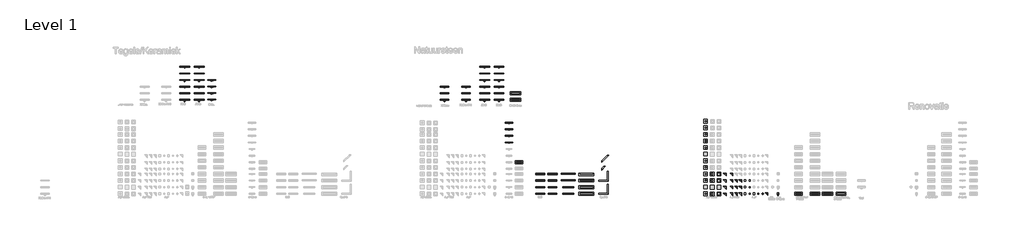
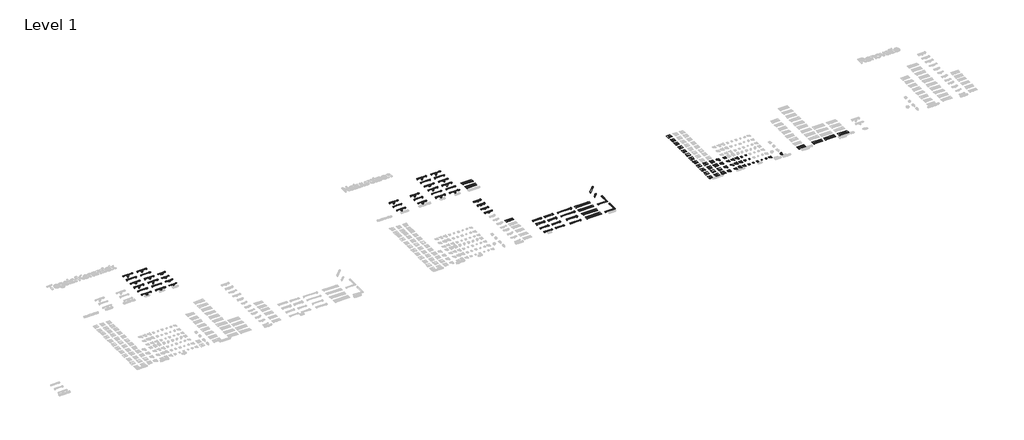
# One storey, part 4 of 23: 121 sanitary terminals, 9 coverings.
"""IFC4 building model written with IfcOpenShell, lengths in millimetres."""

from ifc_helpers import new_model, si_unit, origin, place, context, project, spatial, transform, mapped, element, save
from components import covering_949c216e, covering_b1c8ad42, covering_8_tile_f43c0e9c, sanitary_terminal_5b34698b, sanitary_terminal_7838ee8a, sanitary_terminal_e1eeded3, sanitary_terminal_c62dae5d, sanitary_terminal_87b3114c, sanitary_terminal_f435edd6, sanitary_terminal_14f323dd, sanitary_terminal_3431c1f4, sanitary_terminal_ecf4810a, sanitary_terminal_20bd8035, sanitary_terminal_d8e2b8db, sanitary_terminal_2b42c3a1, sanitary_terminal_618b5920, sanitary_terminal_f49d5aff, sanitary_terminal_9ca81c68, sanitary_terminal_43092b2e, sanitary_terminal_f3bc452c, sanitary_terminal_6d434ef9, sanitary_terminal_b07f8d72, sanitary_terminal_18c5c034, sanitary_terminal_83d6f62a, sanitary_terminal_4a5be464, sanitary_terminal_d9133679, sanitary_terminal_ab72299f, sanitary_terminal_dddee02a, sanitary_terminal_49c4bee3, sanitary_terminal_2f80e022, sanitary_terminal_2ebfcd1c, sanitary_terminal_5c7f7aa6, sanitary_terminal_eb8b4586, sanitary_terminal_f8d560c6, sanitary_terminal_14ebe62b, sanitary_terminal_cf954fec, sanitary_terminal_cd1ec674, black_glass_10x10_94a9755f, black_glass_15x15_4ec12fde, black_glass_20x20_2d4f7b62, compact_d3044acb, compact_ff_tile_2c53a190, compact_taf_09897acd, compact_wall_94ad205f, compact_wall_42add6d5, compact_wall_7a272a64, compact_wall_831ec387, m_line_c0a41354, m_line_9a3da5f7, m2_trap_body_7347115e, multi_long_length_horizontal_outlet_low_40mm_4c622230, multi_taf_wall_horizontal_outlet_high_50mm_fefc41ae, multi_taf_horizontal_outlet_low_40mm_1422f05b, multi_tile_horizontal_outlet_low_40mm_311f17a8, tile_10x10_495e2d9a, tile_10x10_58bf98e1, tile_15x15_625d1f21, tile_20x20_1db265bf, xs_nano_9b7dcf74, xs_nano_wall_a90b67c6, xs_nano_wall_with_m2_vertical_outlet_9d345bf4, xs_nano_with_m2_vertical_outlet_db10e45d

model = new_model("IFC4")

# Units and contexts
model_context = context("Model", 3, world=origin())
ifc_project = project(units=[si_unit("LENGTHUNIT", "METRE", prefix="MILLI")], contexts=[model_context])

# Site, building, storey
site = spatial("IfcSite", under=ifc_project)
building = spatial("IfcBuilding", under=site)
storey = spatial("IfcBuildingStorey", under=building, Name="Level 1", Elevation=0.0)

# Coverings
placement = place(None, origin())
covering_shape = covering_949c216e(model_context)
element("IfcCovering", 1, ObjectType="Z_DO_NOT_USE_NLRS_PF_52_UN_Extension Set_Easydrain : NLRS_PLF_52_UN_Easy Drain verlengset_Easydrain", at=placement, inside=storey, context=model_context, shape_type="MappedRepresentation", body=[
    mapped(covering_shape, transform((88017.5, 7700.0, 0.0), x_axis=(1.0, 0.0, 0.0), y_axis=(0.0, 1.0, 0.0), z_axis=(0.0, 0.0, 1.0))),
])
covering_2_shape = covering_b1c8ad42(model_context)
element("IfcCovering", 2, ObjectType="Z_DO_NOT_USE_NLRS_PF_52_UN_Multi Grate_Easydrain : 2 - Excenter", at=placement, inside=storey, context=model_context, shape_type="MappedRepresentation", body=[
    mapped(covering_2_shape, transform((64749.785592, 8300.0, 0.0), x_axis=(1.0, 0.0, 0.0), y_axis=(0.0, 1.0, 0.0), z_axis=(0.0, 0.0, 1.0))),
])
element("IfcCovering", 3, ObjectType="Z_DO_NOT_USE_NLRS_PF_52_UN_Multi Grate_Easydrain : 1 - Fixt", at=placement, inside=storey, context=model_context, shape_type="MappedRepresentation", body=[
    mapped(covering_2_shape, transform((64749.785592, 7700.0, 0.0), x_axis=(1.0, 0.0, 0.0), y_axis=(0.0, 1.0, 0.0), z_axis=(0.0, 0.0, 1.0))),
])
element("IfcCovering", 4, ObjectType="Z_DO_NOT_USE_NLRS_PF_52_UN_Multi Grate_Easydrain : 1 - Fixt", at=placement, inside=storey, context=model_context, shape_type="MappedRepresentation", body=[
    mapped(covering_2_shape, transform((65849.785592, 9500.0, 0.0), x_axis=(1.0, 0.0, 0.0), y_axis=(0.0, 1.0, 0.0), z_axis=(0.0, 0.0, 1.0))),
])
element("IfcCovering", 5, ObjectType="Z_DO_NOT_USE_NLRS_PF_52_UN_Multi Grate_Easydrain : 7 - Carré", at=placement, inside=storey, context=model_context, shape_type="MappedRepresentation", body=[
    mapped(covering_2_shape, transform((65849.785592, 8300.0, 0.0), x_axis=(1.0, 0.0, 0.0), y_axis=(0.0, 1.0, 0.0), z_axis=(0.0, 0.0, 1.0))),
])
element("IfcCovering", 6, ObjectType="Z_DO_NOT_USE_NLRS_PF_52_UN_Multi Grate_Easydrain : 3 - Outside", at=placement, inside=storey, context=model_context, shape_type="MappedRepresentation", body=[
    mapped(covering_2_shape, transform((64749.785592, 8900.0, 0.0), x_axis=(1.0, 0.0, 0.0), y_axis=(0.0, 1.0, 0.0), z_axis=(0.0, 0.0, 1.0))),
])
element("IfcCovering", 7, ObjectType="Z_DO_NOT_USE_NLRS_PF_52_UN_Multi Grate_Easydrain : 4 - Move", at=placement, inside=storey, context=model_context, shape_type="MappedRepresentation", body=[
    mapped(covering_2_shape, transform((64749.785592, 9500.0, 0.0), x_axis=(1.0, 0.0, 0.0), y_axis=(0.0, 1.0, 0.0), z_axis=(0.0, 0.0, 1.0))),
])
element("IfcCovering", 8, ObjectType="Z_DO_NOT_USE_NLRS_PF_52_UN_Multi Grate_Easydrain : 6 - Zero", at=placement, inside=storey, context=model_context, shape_type="MappedRepresentation", body=[
    mapped(covering_2_shape, transform((65849.785592, 7700.0, 0.0), x_axis=(1.0, 0.0, 0.0), y_axis=(0.0, 1.0, 0.0), z_axis=(0.0, 0.0, 1.0))),
])
covering_8_tile_shape = covering_8_tile_f43c0e9c(model_context)
element("IfcCovering", 9, ObjectType="Z_DO_NOT_USE_NLRS_PF_52_UN_Multi Grate_Easydrain : 8 - Tile", at=placement, inside=storey, context=model_context, shape_type="MappedRepresentation", body=[
    mapped(covering_8_tile_shape, transform((65849.785592, 8900.0, 0.0), x_axis=(1.0, 0.0, 0.0), y_axis=(0.0, 1.0, 0.0), z_axis=(0.0, 0.0, 1.0))),
])

# Sanitary terminals
sanitary_terminal_shape = sanitary_terminal_5b34698b(model_context)
element("IfcSanitaryTerminal", 10, ObjectType="NLRS_PF_52_UN_Aqua Jewels Delta_in_uitloop_Easydrain : Aqua Jewels Delta zijuitloop hoog 50mm, zij-ingang 40mm", at=placement, inside=storey, context=model_context, shape_type="MappedRepresentation", body=[
    mapped(sanitary_terminal_shape, transform((81600.0, 8900.0, 0.0), x_axis=(1.0, 0.0, 0.0), y_axis=(0.0, 1.0, 0.0), z_axis=(0.0, 0.0, 1.0))),
])
element("IfcSanitaryTerminal", 11, ObjectType="NLRS_PF_52_UN_Aqua Jewels Delta_uitloop_Easydrain : Aqua Jewels Delta horizontal outlet low 40mm", at=placement, inside=storey, context=model_context, shape_type="MappedRepresentation", body=[
    mapped(sanitary_terminal_shape, transform((81600.0, 7700.0, 0.0), x_axis=(1.0, 0.0, 0.0), y_axis=(0.0, 1.0, 0.0), z_axis=(0.0, 0.0, 1.0))),
])
sanitary_terminal_2_shape = sanitary_terminal_7838ee8a(model_context)
element("IfcSanitaryTerminal", 12, ObjectType="NLRS_PF_52_UN_Compact Modulo Stone_Easydrain : Compact Modulo Stone", at=placement, inside=storey, context=model_context, shape_type="MappedRepresentation", body=[
    mapped(sanitary_terminal_2_shape, transform((62350.0, 16250.0, 0.0), x_axis=(1.0, 0.0, 0.0), y_axis=(0.0, 1.0, 0.0), z_axis=(0.0, 0.0, 1.0))),
])
sanitary_terminal_3_shape = sanitary_terminal_e1eeded3(model_context)
element("IfcSanitaryTerminal", 13, ObjectType="NLRS_PF_52_UN_Compact TAF Low_Easydrain : Compact TAF Low Inleg", at=placement, inside=storey, context=model_context, shape_type="MappedRepresentation", body=[
    mapped(sanitary_terminal_3_shape, transform((92030.0, 7700.0, 0.0), x_axis=(1.0, 0.0, 0.0), y_axis=(0.0, 1.0, 0.0), z_axis=(0.0, 0.0, 1.0))),
])
sanitary_terminal_4_shape = sanitary_terminal_c62dae5d(model_context)
element("IfcSanitaryTerminal", 14, ObjectType="NLRS_PF_52_UN_Compact TAF Modulo Design_Easydrain : Compact TAF Modulo Design Z2", at=placement, inside=storey, context=model_context, shape_type="MappedRepresentation", body=[
    mapped(sanitary_terminal_4_shape, transform((90750.0, 7700.0, 0.0), x_axis=(1.0, 0.0, 0.0), y_axis=(0.0, 1.0, 0.0), z_axis=(0.0, 0.0, 1.0))),
])
sanitary_terminal_5_shape = sanitary_terminal_87b3114c(model_context)
element("IfcSanitaryTerminal", 15, ObjectType="NLRS_PF_52_UN_Compact TAF Modulo_Easydrain : Compact TAF Modulo Classic", at=placement, inside=storey, context=model_context, shape_type="MappedRepresentation", body=[
    mapped(sanitary_terminal_5_shape, transform((89650.0, 7700.0, 0.0), x_axis=(1.0, 0.0, 0.0), y_axis=(0.0, 1.0, 0.0), z_axis=(0.0, 0.0, 1.0))),
])
sanitary_terminal_6_shape = sanitary_terminal_f435edd6(model_context)
element("IfcSanitaryTerminal", 16, ObjectType="NLRS_PF_52_UN_Multi Long Length in_uitloop_Easydrain : Multi Long Length zijuitloop hoog 50mm, zij-ingang 40mm", at=placement, inside=storey, context=model_context, shape_type="MappedRepresentation", body=[
    mapped(sanitary_terminal_6_shape, transform((66899.785592, 9500.0, 0.0), x_axis=(1.0, 0.0, 0.0), y_axis=(0.0, 1.0, 0.0), z_axis=(0.0, 0.0, 1.0))),
])
sanitary_terminal_7_shape = sanitary_terminal_14f323dd(model_context)
element("IfcSanitaryTerminal", 17, ObjectType="NLRS_PF_52_UN_Multi Square in_uitloop_Easydrain : Multi Square zijuitloop hoog 50mm, zij-ingang 40mm", at=placement, inside=storey, context=model_context, shape_type="MappedRepresentation", body=[
    mapped(sanitary_terminal_7_shape, transform((70049.785592, 9750.0, 0.0), x_axis=(1.0, 0.0, 0.0), y_axis=(0.0, 1.0, 0.0), z_axis=(0.0, 0.0, 1.0))),
])
sanitary_terminal_8_shape = sanitary_terminal_3431c1f4(model_context)
element("IfcSanitaryTerminal", 18, ObjectType="NLRS_PF_52_UN_Multi Trapezium uitloop_Easydrain : Multi Trapezium horizontal outlet low 40mm", at=placement, inside=storey, context=model_context, shape_type="MappedRepresentation", body=[
    mapped(sanitary_terminal_8_shape, transform((70330.3407961, 10197.7332052, 0.0), x_axis=(1.0, 0.0, 0.0), y_axis=(0.0, 1.0, 0.0), z_axis=(0.0, 0.0, 1.0))),
])
sanitary_terminal_9_shape = sanitary_terminal_ecf4810a(model_context)
element("IfcSanitaryTerminal", 19, ObjectType="NLRS_PF_52_UN_XS Nano Wall_Easydrain : XS Nano Wall with M2 flat siphon", at=placement, inside=storey, context=model_context, shape_type="MappedRepresentation", body=[
    mapped(sanitary_terminal_9_shape, transform((57980.6066412, 16850.0, 0.0), x_axis=(1.0, 0.0, 0.0), y_axis=(0.0, 1.0, 0.0), z_axis=(0.0, 0.0, 1.0))),
])
sanitary_terminal_10_shape = sanitary_terminal_20bd8035(model_context)
element("IfcSanitaryTerminal", 20, ObjectType="NLRS_PF_52_UN_XS Nano_Easydrain : XS Nano with M2 flat siphon", at=placement, inside=storey, context=model_context, shape_type="MappedRepresentation", body=[
    mapped(sanitary_terminal_10_shape, transform((56021.2379249, 16850.0, 0.0), x_axis=(1.0, 0.0, 0.0), y_axis=(0.0, 1.0, 0.0), z_axis=(0.0, 0.0, 1.0))),
])
sanitary_terminal_11_shape = sanitary_terminal_d8e2b8db(model_context)
element("IfcSanitaryTerminal", 21, ObjectType="NLRS_PF_52_UN_XS Z1 Complete Set_Easydrain : XS-Z1 Brushed", at=placement, inside=storey, context=model_context, shape_type="MappedRepresentation", body=[
    mapped(sanitary_terminal_11_shape, transform((59671.5543344, 16250.0, 0.0), x_axis=(1.0, 0.0, 0.0), y_axis=(0.0, 1.0, 0.0), z_axis=(0.0, 0.0, 1.0))),
])
element("IfcSanitaryTerminal", 22, ObjectType="NLRS_PF_52_UN_XS Z1 Complete Set_Easydrain : XS-Z1 Brushed", at=placement, inside=storey, context=model_context, shape_type="MappedRepresentation", body=[
    mapped(sanitary_terminal_11_shape, transform((32366.8389113, 16250.0, 0.0), x_axis=(1.0, 0.0, 0.0), y_axis=(0.0, 1.0, 0.0), z_axis=(0.0, 0.0, 1.0))),
])
sanitary_terminal_12_shape = sanitary_terminal_2b42c3a1(model_context)
element("IfcSanitaryTerminal", 23, ObjectType="NLRS_PF_52_UN_XS Z1 Complete Set_Easydrain : XS-Z1 Brushed with M2 vertical outlet", at=placement, inside=storey, context=model_context, shape_type="MappedRepresentation", body=[
    mapped(sanitary_terminal_12_shape, transform((59671.5543344, 17450.0, 0.0), x_axis=(1.0, 0.0, 0.0), y_axis=(0.0, 1.0, 0.0), z_axis=(0.0, 0.0, 1.0))),
])
element("IfcSanitaryTerminal", 24, ObjectType="NLRS_PF_52_UN_XS Z1 Complete Set_Easydrain : XS-Z1 Brushed with M2 vertical outlet", at=placement, inside=storey, context=model_context, shape_type="MappedRepresentation", body=[
    mapped(sanitary_terminal_12_shape, transform((32366.8389113, 17450.0, 0.0), x_axis=(1.0, 0.0, 0.0), y_axis=(0.0, 1.0, 0.0), z_axis=(0.0, 0.0, 1.0))),
])
sanitary_terminal_13_shape = sanitary_terminal_618b5920(model_context)
element("IfcSanitaryTerminal", 25, ObjectType="NLRS_PF_52_UN_XS Z1 Complete Set_Easydrain : XS-Z1 Brushed with M2 flat siphon", at=placement, inside=storey, context=model_context, shape_type="MappedRepresentation", body=[
    mapped(sanitary_terminal_13_shape, transform((59671.5543344, 16850.0, 0.0), x_axis=(1.0, 0.0, 0.0), y_axis=(0.0, 1.0, 0.0), z_axis=(0.0, 0.0, 1.0))),
])
element("IfcSanitaryTerminal", 26, ObjectType="NLRS_PF_52_UN_XS Z1 Complete Set_Easydrain : XS-Z1 Brushed with M2 flat siphon", at=placement, inside=storey, context=model_context, shape_type="MappedRepresentation", body=[
    mapped(sanitary_terminal_13_shape, transform((32366.8389113, 16850.0, 0.0), x_axis=(1.0, 0.0, 0.0), y_axis=(0.0, 1.0, 0.0), z_axis=(0.0, 0.0, 1.0))),
])
element("IfcSanitaryTerminal", 27, ObjectType="NLRS_PF_52_UN_XS Z1 Complete Set_Easydrain : XS-Z1 Chrome Plated", at=placement, inside=storey, context=model_context, shape_type="MappedRepresentation", body=[
    mapped(sanitary_terminal_11_shape, transform((59671.5543344, 18050.0, 0.0), x_axis=(1.0, 0.0, 0.0), y_axis=(0.0, 1.0, 0.0), z_axis=(0.0, 0.0, 1.0))),
])
element("IfcSanitaryTerminal", 28, ObjectType="NLRS_PF_52_UN_XS Z1 Complete Set_Easydrain : XS-Z1 Chrome Plated", at=placement, inside=storey, context=model_context, shape_type="MappedRepresentation", body=[
    mapped(sanitary_terminal_11_shape, transform((32366.8389113, 18050.0, 0.0), x_axis=(1.0, 0.0, 0.0), y_axis=(0.0, 1.0, 0.0), z_axis=(0.0, 0.0, 1.0))),
])
element("IfcSanitaryTerminal", 29, ObjectType="NLRS_PF_52_UN_XS Z1 Complete Set_Easydrain : XS-Z1 Chrome Plated with M2 flat siphon", at=placement, inside=storey, context=model_context, shape_type="MappedRepresentation", body=[
    mapped(sanitary_terminal_13_shape, transform((59671.5543344, 18650.0, 0.0), x_axis=(1.0, 0.0, 0.0), y_axis=(0.0, 1.0, 0.0), z_axis=(0.0, 0.0, 1.0))),
])
element("IfcSanitaryTerminal", 30, ObjectType="NLRS_PF_52_UN_XS Z1 Complete Set_Easydrain : XS-Z1 Chrome Plated with M2 flat siphon", at=placement, inside=storey, context=model_context, shape_type="MappedRepresentation", body=[
    mapped(sanitary_terminal_13_shape, transform((32366.8389113, 18650.0, 0.0), x_axis=(1.0, 0.0, 0.0), y_axis=(0.0, 1.0, 0.0), z_axis=(0.0, 0.0, 1.0))),
])
element("IfcSanitaryTerminal", 31, ObjectType="NLRS_PF_52_UN_XS Z1 Complete Set_Easydrain : XS-Z1 Chrome Plated with M2 vertical outlet", at=placement, inside=storey, context=model_context, shape_type="MappedRepresentation", body=[
    mapped(sanitary_terminal_12_shape, transform((59671.5543344, 19250.0, 0.0), x_axis=(1.0, 0.0, 0.0), y_axis=(0.0, 1.0, 0.0), z_axis=(0.0, 0.0, 1.0))),
])
element("IfcSanitaryTerminal", 32, ObjectType="NLRS_PF_52_UN_XS Z1 Complete Set_Easydrain : XS-Z1 Chrome Plated with M2 vertical outlet", at=placement, inside=storey, context=model_context, shape_type="MappedRepresentation", body=[
    mapped(sanitary_terminal_12_shape, transform((32366.8389113, 19250.0, 0.0), x_axis=(1.0, 0.0, 0.0), y_axis=(0.0, 1.0, 0.0), z_axis=(0.0, 0.0, 1.0))),
])
sanitary_terminal_14_shape = sanitary_terminal_f49d5aff(model_context)
element("IfcSanitaryTerminal", 33, ObjectType="NLRS_PF_52_UN_XS Z4 Complete Set_Easydrain : XS-Z4 Brushed", at=placement, inside=storey, context=model_context, shape_type="MappedRepresentation", body=[
    mapped(sanitary_terminal_14_shape, transform((60983.107179, 16250.0, 0.0), x_axis=(1.0, 0.0, 0.0), y_axis=(0.0, 1.0, 0.0), z_axis=(0.0, 0.0, 1.0))),
])
element("IfcSanitaryTerminal", 34, ObjectType="NLRS_PF_52_UN_XS Z4 Complete Set_Easydrain : XS-Z4 Brushed", at=placement, inside=storey, context=model_context, shape_type="MappedRepresentation", body=[
    mapped(sanitary_terminal_14_shape, transform((33678.3917559, 16250.0, 0.0), x_axis=(1.0, 0.0, 0.0), y_axis=(0.0, 1.0, 0.0), z_axis=(0.0, 0.0, 1.0))),
])
sanitary_terminal_15_shape = sanitary_terminal_9ca81c68(model_context)
element("IfcSanitaryTerminal", 35, ObjectType="NLRS_PF_52_UN_XS Z4 Complete Set_Easydrain : XS-Z4 Brushed with M2 vertical outlet", at=placement, inside=storey, context=model_context, shape_type="MappedRepresentation", body=[
    mapped(sanitary_terminal_15_shape, transform((60983.107179, 17450.0, 0.0), x_axis=(1.0, 0.0, 0.0), y_axis=(0.0, 1.0, 0.0), z_axis=(0.0, 0.0, 1.0))),
])
element("IfcSanitaryTerminal", 36, ObjectType="NLRS_PF_52_UN_XS Z4 Complete Set_Easydrain : XS-Z4 Brushed with M2 vertical outlet", at=placement, inside=storey, context=model_context, shape_type="MappedRepresentation", body=[
    mapped(sanitary_terminal_15_shape, transform((33678.3917559, 17450.0, 0.0), x_axis=(1.0, 0.0, 0.0), y_axis=(0.0, 1.0, 0.0), z_axis=(0.0, 0.0, 1.0))),
])
sanitary_terminal_16_shape = sanitary_terminal_43092b2e(model_context)
element("IfcSanitaryTerminal", 37, ObjectType="NLRS_PF_52_UN_XS Z4 Complete Set_Easydrain : XS-Z4 Brushed with M2 flat siphon", at=placement, inside=storey, context=model_context, shape_type="MappedRepresentation", body=[
    mapped(sanitary_terminal_16_shape, transform((60983.107179, 16850.0, 0.0), x_axis=(1.0, 0.0, 0.0), y_axis=(0.0, 1.0, 0.0), z_axis=(0.0, 0.0, 1.0))),
])
element("IfcSanitaryTerminal", 38, ObjectType="NLRS_PF_52_UN_XS Z4 Complete Set_Easydrain : XS-Z4 Brushed with M2 flat siphon", at=placement, inside=storey, context=model_context, shape_type="MappedRepresentation", body=[
    mapped(sanitary_terminal_16_shape, transform((33678.3917559, 16850.0, 0.0), x_axis=(1.0, 0.0, 0.0), y_axis=(0.0, 1.0, 0.0), z_axis=(0.0, 0.0, 1.0))),
])
element("IfcSanitaryTerminal", 39, ObjectType="NLRS_PF_52_UN_XS Z4 Complete Set_Easydrain : XS-Z4 Chrome Plated", at=placement, inside=storey, context=model_context, shape_type="MappedRepresentation", body=[
    mapped(sanitary_terminal_14_shape, transform((60983.107179, 18050.0, 0.0), x_axis=(1.0, 0.0, 0.0), y_axis=(0.0, 1.0, 0.0), z_axis=(0.0, 0.0, 1.0))),
])
element("IfcSanitaryTerminal", 40, ObjectType="NLRS_PF_52_UN_XS Z4 Complete Set_Easydrain : XS-Z4 Chrome Plated", at=placement, inside=storey, context=model_context, shape_type="MappedRepresentation", body=[
    mapped(sanitary_terminal_14_shape, transform((33678.3917559, 18050.0, 0.0), x_axis=(1.0, 0.0, 0.0), y_axis=(0.0, 1.0, 0.0), z_axis=(0.0, 0.0, 1.0))),
])
element("IfcSanitaryTerminal", 41, ObjectType="NLRS_PF_52_UN_XS Z4 Complete Set_Easydrain : XS-Z4 Chrome Plated with M2 flat siphon", at=placement, inside=storey, context=model_context, shape_type="MappedRepresentation", body=[
    mapped(sanitary_terminal_16_shape, transform((60983.107179, 18650.0, 0.0), x_axis=(1.0, 0.0, 0.0), y_axis=(0.0, 1.0, 0.0), z_axis=(0.0, 0.0, 1.0))),
])
element("IfcSanitaryTerminal", 42, ObjectType="NLRS_PF_52_UN_XS Z4 Complete Set_Easydrain : XS-Z4 Chrome Plated with M2 flat siphon", at=placement, inside=storey, context=model_context, shape_type="MappedRepresentation", body=[
    mapped(sanitary_terminal_16_shape, transform((33678.3917559, 18650.0, 0.0), x_axis=(1.0, 0.0, 0.0), y_axis=(0.0, 1.0, 0.0), z_axis=(0.0, 0.0, 1.0))),
])
element("IfcSanitaryTerminal", 43, ObjectType="NLRS_PF_52_UN_XS Z4 Complete Set_Easydrain : XS-Z4 Chrome Plated with M2 vertical outlet", at=placement, inside=storey, context=model_context, shape_type="MappedRepresentation", body=[
    mapped(sanitary_terminal_15_shape, transform((60983.107179, 19250.0, 0.0), x_axis=(1.0, 0.0, 0.0), y_axis=(0.0, 1.0, 0.0), z_axis=(0.0, 0.0, 1.0))),
])
element("IfcSanitaryTerminal", 44, ObjectType="NLRS_PF_52_UN_XS Z4 Complete Set_Easydrain : XS-Z4 Chrome Plated with M2 vertical outlet", at=placement, inside=storey, context=model_context, shape_type="MappedRepresentation", body=[
    mapped(sanitary_terminal_15_shape, transform((33678.3917559, 19250.0, 0.0), x_axis=(1.0, 0.0, 0.0), y_axis=(0.0, 1.0, 0.0), z_axis=(0.0, 0.0, 1.0))),
])
sanitary_terminal_17_shape = sanitary_terminal_f3bc452c(model_context)
element("IfcSanitaryTerminal", 45, ObjectType="NLRS_PF_52_UN_Compact Modulo Stone_Easydrain : Compact Modulo Stone", at=placement, inside=storey, context=model_context, shape_type="MappedRepresentation", body=[
    mapped(sanitary_terminal_17_shape, transform((62350.0, 16850.0, 0.0), x_axis=(1.0, 0.0, 0.0), y_axis=(0.0, 1.0, 0.0), z_axis=(0.0, 0.0, 1.0))),
])
sanitary_terminal_18_shape = sanitary_terminal_6d434ef9(model_context)
element("IfcSanitaryTerminal", 46, ObjectType="NLRS_PF_52_UN_Multi in_uitloop_Easydrain : Multi zijuitloop hoog 50mm, zij-ingang 40mm", at=placement, inside=storey, context=model_context, shape_type="MappedRepresentation", body=[
    mapped(sanitary_terminal_18_shape, transform((65699.785592, 7700.0, 0.0), x_axis=(1.0, 0.0, 0.0), y_axis=(0.0, 1.0, 0.0), z_axis=(0.0, 0.0, 1.0))),
])
element("IfcSanitaryTerminal", 47, ObjectType="NLRS_PF_52_UN_Multi in_uitloop_Easydrain : Multi zijuitloop hoog 50mm, zij-ingang 40mm", at=placement, inside=storey, context=model_context, shape_type="MappedRepresentation", body=[
    mapped(sanitary_terminal_18_shape, transform((65699.785592, 8300.0, 0.0), x_axis=(1.0, 0.0, 0.0), y_axis=(0.0, 1.0, 0.0), z_axis=(0.0, 0.0, 1.0))),
])
sanitary_terminal_19_shape = sanitary_terminal_b07f8d72(model_context)
element("IfcSanitaryTerminal", 48, ObjectType="NLRS_PF_52_UN_Multi in_uitloop_Easydrain : Multi zijuitloop hoog 50mm, zij-ingang 40mm", at=placement, inside=storey, context=model_context, shape_type="MappedRepresentation", body=[
    mapped(sanitary_terminal_19_shape, transform((65699.785592, 8900.0, 0.0), x_axis=(1.0, 0.0, 0.0), y_axis=(0.0, 1.0, 0.0), z_axis=(0.0, 0.0, 1.0))),
])
sanitary_terminal_20_shape = sanitary_terminal_18c5c034(model_context)
element("IfcSanitaryTerminal", 49, ObjectType="NLRS_PF_52_UN_Multi in_uitloop_Easydrain : Multi zijuitloop hoog 50mm, zij-ingang 40mm", at=placement, inside=storey, context=model_context, shape_type="MappedRepresentation", body=[
    mapped(sanitary_terminal_20_shape, transform((65699.785592, 9500.0, 0.0), x_axis=(1.0, 0.0, 0.0), y_axis=(0.0, 1.0, 0.0), z_axis=(0.0, 0.0, 1.0))),
])
sanitary_terminal_21_shape = sanitary_terminal_83d6f62a(model_context)
element("IfcSanitaryTerminal", 50, ObjectType="NLRS_PF_52_UN_Multi TAF in_uitloop_Easydrain : Multi TAF zijuitloop hoog 50mm, zij-ingang 40mm", at=placement, inside=storey, context=model_context, shape_type="MappedRepresentation", body=[
    mapped(sanitary_terminal_21_shape, transform((68599.785592, 8300.0, 0.0), x_axis=(1.0, 0.0, 0.0), y_axis=(0.0, 1.0, 0.0), z_axis=(0.0, 0.0, 1.0))),
])
sanitary_terminal_22_shape = sanitary_terminal_4a5be464(model_context)
element("IfcSanitaryTerminal", 51, ObjectType="NLRS_PF_52_UN_Multi TAF Wall in_uitloop_Easydrain : Multi TAF Wall zijuitloop hoog 50mm, zij-ingang 40mm", at=placement, inside=storey, context=model_context, shape_type="MappedRepresentation", body=[
    mapped(sanitary_terminal_22_shape, transform((68599.785592, 9500.0, 0.0), x_axis=(1.0, 0.0, 0.0), y_axis=(0.0, 1.0, 0.0), z_axis=(0.0, 0.0, 1.0))),
])
sanitary_terminal_23_shape = sanitary_terminal_d9133679(model_context)
element("IfcSanitaryTerminal", 52, ObjectType="NLRS_PF_52_UN_Multi Tile in_uitloop_Easydrain : Multi Tile zijuitloop hoog 50mm, zij-ingang 40mm", at=placement, inside=storey, context=model_context, shape_type="MappedRepresentation", body=[
    mapped(sanitary_terminal_23_shape, transform((67049.785592, 8300.0, 0.0), x_axis=(1.0, 0.0, 0.0), y_axis=(0.0, 1.0, 0.0), z_axis=(0.0, 0.0, 1.0))),
])
sanitary_terminal_24_shape = sanitary_terminal_ab72299f(model_context)
element("IfcSanitaryTerminal", 53, ObjectType="NLRS_PF_52_UN_Multi Trapezium in_uitloop_Easydrain : Multi Trapezium zijuitloop hoog 50mm, zij-ingang 40mm", at=placement, inside=storey, context=model_context, shape_type="MappedRepresentation", body=[
    mapped(sanitary_terminal_24_shape, transform((70330.3407961, 11187.0248644, 0.0), x_axis=(1.0, 0.0, 0.0), y_axis=(0.0, 1.0, 0.0), z_axis=(0.0, 0.0, 1.0))),
])
sanitary_terminal_25_shape = sanitary_terminal_dddee02a(model_context)
element("IfcSanitaryTerminal", 54, ObjectType="NLRS_PF_52_UN_Aqua Jewels Delta_in_uitloop_Easydrain : Aqua Jewels Delta zijuitloop hoog 50mm, zij-ingang 40mm", at=placement, inside=storey, context=model_context, shape_type="MappedRepresentation", body=[
    mapped(sanitary_terminal_25_shape, transform((81600.0, 9500.0, 0.0), x_axis=(1.0, 0.0, 0.0), y_axis=(0.0, 1.0, 0.0), z_axis=(0.0, 0.0, 1.0))),
])
element("IfcSanitaryTerminal", 55, ObjectType="NLRS_PF_52_UN_Aqua Jewels Delta_uitloop_Easydrain : Aqua Jewels Delta horizontal outlet low 40mm", at=placement, inside=storey, context=model_context, shape_type="MappedRepresentation", body=[
    mapped(sanitary_terminal_25_shape, transform((81600.0, 8300.0, 0.0), x_axis=(1.0, 0.0, 0.0), y_axis=(0.0, 1.0, 0.0), z_axis=(0.0, 0.0, 1.0))),
])
sanitary_terminal_26_shape = sanitary_terminal_49c4bee3(model_context)
element("IfcSanitaryTerminal", 56, ObjectType="Z_DO_NOT_USE_NLRS_PF_52_UN_Multi sifon uitloop_Easydrain : onderuitloop 50mm", at=placement, inside=storey, context=model_context, shape_type="MappedRepresentation", body=[
    mapped(sanitary_terminal_26_shape, transform((82200.0, 9500.0, -10.0), x_axis=(1.0, 0.0, 0.0), y_axis=(0.0, 1.0, 0.0), z_axis=(0.0, 0.0, 1.0))),
])
sanitary_terminal_27_shape = sanitary_terminal_2f80e022(model_context)
element("IfcSanitaryTerminal", 57, ObjectType="NLRS_PF_52_UN_Aqua Delta_uitloop_Easydrain : Aqua Delta horizontal outlet low 40mm", at=placement, inside=storey, context=model_context, shape_type="MappedRepresentation", body=[
    mapped(sanitary_terminal_27_shape, transform((85400.0, 7700.0, 0.0), x_axis=(1.0, 0.0, 0.0), y_axis=(0.0, 1.0, 0.0), z_axis=(0.0, 0.0, 1.0))),
])
sanitary_terminal_28_shape = sanitary_terminal_2ebfcd1c(model_context)
element("IfcSanitaryTerminal", 58, ObjectType="NLRS_PF_52_UN_Aqua Plus Delta_uitloop_Easydrain : Aqua Plus Delta horizontal outlet high 50mm", at=placement, inside=storey, context=model_context, shape_type="MappedRepresentation", body=[
    mapped(sanitary_terminal_28_shape, transform((82200.0, 8900.0, 0.0), x_axis=(1.0, 0.0, 0.0), y_axis=(0.0, 1.0, 0.0), z_axis=(0.0, 0.0, 1.0))),
])
sanitary_terminal_29_shape = sanitary_terminal_5c7f7aa6(model_context)
element("IfcSanitaryTerminal", 59, ObjectType="NLRS_PF_52_UN_Aqua Plus Delta_uitloop_Easydrain : Aqua Plus Delta horizontal outlet high 50mm", at=placement, inside=storey, context=model_context, shape_type="MappedRepresentation", body=[
    mapped(sanitary_terminal_29_shape, transform((82600.0, 8900.0, 0.0), x_axis=(1.0, 0.0, 0.0), y_axis=(0.0, 1.0, 0.0), z_axis=(0.0, 0.0, 1.0))),
])
element("IfcSanitaryTerminal", 60, ObjectType="NLRS_PF_52_UN_Aqua Plus Delta_uitloop_Easydrain : Aqua Plus Delta horizontal outlet high 50mm", at=placement, inside=storey, context=model_context, shape_type="MappedRepresentation", body=[
    mapped(sanitary_terminal_29_shape, transform((83000.0, 8900.0, 0.0), x_axis=(1.0, 0.0, 0.0), y_axis=(0.0, 1.0, 0.0), z_axis=(0.0, 0.0, 1.0))),
])
element("IfcSanitaryTerminal", 61, ObjectType="NLRS_PF_52_UN_Aqua Plus Delta_uitloop_Easydrain : Aqua Plus Delta horizontal outlet low 40mm", at=placement, inside=storey, context=model_context, shape_type="MappedRepresentation", body=[
    mapped(sanitary_terminal_28_shape, transform((82200.0, 7700.0, 0.0), x_axis=(1.0, 0.0, 0.0), y_axis=(0.0, 1.0, 0.0), z_axis=(0.0, 0.0, 1.0))),
])
element("IfcSanitaryTerminal", 62, ObjectType="NLRS_PF_52_UN_Aqua Plus Delta_uitloop_Easydrain : Aqua Plus Delta horizontal outlet low 40mm", at=placement, inside=storey, context=model_context, shape_type="MappedRepresentation", body=[
    mapped(sanitary_terminal_29_shape, transform((82600.0, 7700.0, 0.0), x_axis=(1.0, 0.0, 0.0), y_axis=(0.0, 1.0, 0.0), z_axis=(0.0, 0.0, 1.0))),
])
element("IfcSanitaryTerminal", 63, ObjectType="NLRS_PF_52_UN_Aqua Plus Delta_uitloop_Easydrain : Aqua Plus Delta horizontal outlet low 40mm", at=placement, inside=storey, context=model_context, shape_type="MappedRepresentation", body=[
    mapped(sanitary_terminal_29_shape, transform((83000.0, 7700.0, 0.0), x_axis=(1.0, 0.0, 0.0), y_axis=(0.0, 1.0, 0.0), z_axis=(0.0, 0.0, 1.0))),
])
element("IfcSanitaryTerminal", 64, ObjectType="NLRS_PF_52_UN_Aqua Plus Delta_uitloop_Easydrain : Aqua Plus Delta horizontal outlet low 50mm", at=placement, inside=storey, context=model_context, shape_type="MappedRepresentation", body=[
    mapped(sanitary_terminal_28_shape, transform((82200.0, 8300.0, 0.0), x_axis=(1.0, 0.0, 0.0), y_axis=(0.0, 1.0, 0.0), z_axis=(0.0, 0.0, 1.0))),
])
element("IfcSanitaryTerminal", 65, ObjectType="NLRS_PF_52_UN_Aqua Plus Delta_uitloop_Easydrain : Aqua Plus Delta horizontal outlet low 50mm", at=placement, inside=storey, context=model_context, shape_type="MappedRepresentation", body=[
    mapped(sanitary_terminal_29_shape, transform((82600.0, 8300.0, 0.0), x_axis=(1.0, 0.0, 0.0), y_axis=(0.0, 1.0, 0.0), z_axis=(0.0, 0.0, 1.0))),
])
element("IfcSanitaryTerminal", 66, ObjectType="NLRS_PF_52_UN_Aqua Plus Delta_uitloop_Easydrain : Aqua Plus Delta horizontal outlet low 50mm", at=placement, inside=storey, context=model_context, shape_type="MappedRepresentation", body=[
    mapped(sanitary_terminal_29_shape, transform((83000.0, 8300.0, 0.0), x_axis=(1.0, 0.0, 0.0), y_axis=(0.0, 1.0, 0.0), z_axis=(0.0, 0.0, 1.0))),
])
element("IfcSanitaryTerminal", 67, ObjectType="NLRS_PF_52_UN_Aqua Plus Delta_uitloop_Easydrain : Aqua Plus Delta vertical outlet 50mm", at=placement, inside=storey, context=model_context, shape_type="MappedRepresentation", body=[
    mapped(sanitary_terminal_28_shape, transform((82200.0, 9500.0, 0.0), x_axis=(1.0, 0.0, 0.0), y_axis=(0.0, 1.0, 0.0), z_axis=(0.0, 0.0, 1.0))),
])
sanitary_terminal_30_shape = sanitary_terminal_eb8b4586(model_context)
element("IfcSanitaryTerminal", 68, ObjectType="NLRS_PF_52_UN_Aqua Plus Quattro_uitloop_Easydrain : Aqua Plus Quattro Horizontal Outlet Low 40mm", at=placement, inside=storey, context=model_context, shape_type="MappedRepresentation", body=[
    mapped(sanitary_terminal_30_shape, transform((83400.0, 7700.0, 0.0), x_axis=(1.0, 0.0, 0.0), y_axis=(0.0, 1.0, 0.0), z_axis=(0.0, 0.0, 1.0))),
])
element("IfcSanitaryTerminal", 69, ObjectType="NLRS_PF_52_UN_Aqua Plus Quattro_uitloop_Easydrain : Aqua Plus Quattro Horizontal outlet Low 50mm", at=placement, inside=storey, context=model_context, shape_type="MappedRepresentation", body=[
    mapped(sanitary_terminal_30_shape, transform((83400.0, 8300.0, 0.0), x_axis=(1.0, 0.0, 0.0), y_axis=(0.0, 1.0, 0.0), z_axis=(0.0, 0.0, 1.0))),
])
element("IfcSanitaryTerminal", 70, ObjectType="NLRS_PF_52_UN_Aqua Plus Quattro_uitloop_Easydrain : Aqua Plus Quattro Horizontal outlet high 50mm", at=placement, inside=storey, context=model_context, shape_type="MappedRepresentation", body=[
    mapped(sanitary_terminal_30_shape, transform((83400.0, 8900.0, 0.0), x_axis=(1.0, 0.0, 0.0), y_axis=(0.0, 1.0, 0.0), z_axis=(0.0, 0.0, 1.0))),
])
sanitary_terminal_31_shape = sanitary_terminal_f8d560c6(model_context)
element("IfcSanitaryTerminal", 71, ObjectType="NLRS_PF_52_UN_Aqua Quattro_uitloop_Easydrain : Aqua Quattro Horizontal Outlet Low 40mm", at=placement, inside=storey, context=model_context, shape_type="MappedRepresentation", body=[
    mapped(sanitary_terminal_31_shape, transform((83800.0, 7700.0, 0.0), x_axis=(1.0, 0.0, 0.0), y_axis=(0.0, 1.0, 0.0), z_axis=(0.0, 0.0, 1.0))),
])
sanitary_terminal_32_shape = sanitary_terminal_14ebe62b(model_context)
element("IfcSanitaryTerminal", 72, ObjectType="NLRS_PF_52_UN_Aqua Quattro_uitloop_Easydrain : Aqua Quattro Horizontal Outlet Low 40mm", at=placement, inside=storey, context=model_context, shape_type="MappedRepresentation", body=[
    mapped(sanitary_terminal_32_shape, transform((84200.0, 7700.0, 0.0), x_axis=(1.0, 0.0, 0.0), y_axis=(0.0, 1.0, 0.0), z_axis=(0.0, 0.0, 1.0))),
])
element("IfcSanitaryTerminal", 73, ObjectType="NLRS_PF_52_UN_Aqua Quattro_uitloop_Easydrain : Aqua Quattro Horizontal outlet Low 50mm", at=placement, inside=storey, context=model_context, shape_type="MappedRepresentation", body=[
    mapped(sanitary_terminal_31_shape, transform((83800.0, 8300.0, 0.0), x_axis=(1.0, 0.0, 0.0), y_axis=(0.0, 1.0, 0.0), z_axis=(0.0, 0.0, 1.0))),
])
element("IfcSanitaryTerminal", 74, ObjectType="NLRS_PF_52_UN_Aqua Quattro_uitloop_Easydrain : Aqua Quattro Horizontal outlet high 50mm", at=placement, inside=storey, context=model_context, shape_type="MappedRepresentation", body=[
    mapped(sanitary_terminal_31_shape, transform((83800.0, 8900.0, 0.0), x_axis=(1.0, 0.0, 0.0), y_axis=(0.0, 1.0, 0.0), z_axis=(0.0, 0.0, 1.0))),
])
sanitary_terminal_33_shape = sanitary_terminal_cf954fec(model_context)
element("IfcSanitaryTerminal", 75, ObjectType="NLRS_PF_52_UN_Aqua Round_uitloop_Easydrain : Aqua Round Horizontal Outlet Low 40mm", at=placement, inside=storey, context=model_context, shape_type="MappedRepresentation", body=[
    mapped(sanitary_terminal_33_shape, transform((84600.0, 7700.0, 0.0), x_axis=(1.0, 0.0, 0.0), y_axis=(0.0, 1.0, 0.0), z_axis=(0.0, 0.0, 1.0))),
])
sanitary_terminal_34_shape = sanitary_terminal_cd1ec674(model_context)
element("IfcSanitaryTerminal", 76, ObjectType="NLRS_PF_52_UN_Aqua Round_uitloop_Easydrain : Aqua Round Horizontal Outlet Low 40mm", at=placement, inside=storey, context=model_context, shape_type="MappedRepresentation", body=[
    mapped(sanitary_terminal_34_shape, transform((85000.0, 7700.0, 0.0), x_axis=(1.0, 0.0, 0.0), y_axis=(0.0, 1.0, 0.0), z_axis=(0.0, 0.0, 1.0))),
])
black_glass_10x10_shape = black_glass_10x10_94a9755f(model_context)
element("IfcSanitaryTerminal", 77, ObjectType="Z_DO_NOT_USE_NLRS_PF_52_UN_Aqua Jewels Quattro Complete_Easydrain : Black Glass 10x10", at=placement, inside=storey, context=model_context, shape_type="MappedRepresentation", body=[
    mapped(black_glass_10x10_shape, transform((79800.0, 8900.0, 0.0), x_axis=(1.0, 0.0, 0.0), y_axis=(0.0, 1.0, 0.0), z_axis=(0.0, 0.0, 1.0))),
])
element("IfcSanitaryTerminal", 78, ObjectType="Z_DO_NOT_USE_NLRS_PF_52_UN_Aqua Jewels Quattro Complete_Easydrain : Black Glass 10x10", at=placement, inside=storey, context=model_context, shape_type="MappedRepresentation", body=[
    mapped(black_glass_10x10_shape, transform((79800.0, 11900.0, 0.0), x_axis=(1.0, 0.0, 0.0), y_axis=(0.0, 1.0, 0.0), z_axis=(0.0, 0.0, 1.0))),
])
black_glass_15x15_shape = black_glass_15x15_4ec12fde(model_context)
element("IfcSanitaryTerminal", 79, ObjectType="Z_DO_NOT_USE_NLRS_PF_52_UN_Aqua Jewels Quattro Complete_Easydrain : Black Glass 15x15", at=placement, inside=storey, context=model_context, shape_type="MappedRepresentation", body=[
    mapped(black_glass_15x15_shape, transform((80400.0, 8900.0, 0.0), x_axis=(1.0, 0.0, 0.0), y_axis=(0.0, 1.0, 0.0), z_axis=(0.0, 0.0, 1.0))),
])
black_glass_20x20_shape = black_glass_20x20_2d4f7b62(model_context)
element("IfcSanitaryTerminal", 80, ObjectType="Z_DO_NOT_USE_NLRS_PF_52_UN_Aqua Jewels Quattro Complete_Easydrain : Black Glass 20x20", at=placement, inside=storey, context=model_context, shape_type="MappedRepresentation", body=[
    mapped(black_glass_20x20_shape, transform((81000.0, 8900.0, 0.0), x_axis=(1.0, 0.0, 0.0), y_axis=(0.0, 1.0, 0.0), z_axis=(0.0, 0.0, 1.0))),
])
compact_shape = compact_d3044acb(model_context)
element("IfcSanitaryTerminal", 81, ObjectType="NLRS_PF_52_UN_Aqua Compact_Easydrain : Compact", at=placement, inside=storey, context=model_context, shape_type="MappedRepresentation", body=[
    mapped(compact_shape, transform((86400.0, 7700.0, 0.0), x_axis=(1.0, 0.0, 0.0), y_axis=(0.0, 1.0, 0.0), z_axis=(0.0, 0.0, 1.0))),
])
compact_ff_tile_shape = compact_ff_tile_2c53a190(model_context)
element("IfcSanitaryTerminal", 82, ObjectType="NLRS_PF_52_UN_Compact Tile_Easydrain : Compact FF Tile", at=placement, inside=storey, context=model_context, shape_type="MappedRepresentation", body=[
    mapped(compact_ff_tile_shape, transform((62799.785592, 10560.0, 0.0), x_axis=(1.0, 0.0, 0.0), y_axis=(0.0, 1.0, 0.0), z_axis=(0.0, 0.0, 1.0))),
])
compact_taf_shape = compact_taf_09897acd(model_context)
element("IfcSanitaryTerminal", 83, ObjectType="NLRS_PF_52_UN_Compact TAF_Easydrain : Compact TAF", at=placement, inside=storey, context=model_context, shape_type="MappedRepresentation", body=[
    mapped(compact_taf_shape, transform((88250.0, 7700.0, 0.0), x_axis=(1.0, 0.0, 0.0), y_axis=(0.0, 1.0, 0.0), z_axis=(0.0, 0.0, 1.0))),
])
compact_wall_shape = compact_wall_94ad205f(model_context)
element("IfcSanitaryTerminal", 84, ObjectType="NLRS_PF_52_UN_Compact_Easydrain : Compact Wall", at=placement, inside=storey, context=model_context, shape_type="MappedRepresentation", body=[
    mapped(compact_wall_shape, transform((61799.785592, 12360.0, 0.0), x_axis=(1.0, 0.0, 0.0), y_axis=(0.0, 1.0, 0.0), z_axis=(0.0, 0.0, 1.0))),
])
compact_wall_2_shape = compact_wall_42add6d5(model_context)
element("IfcSanitaryTerminal", 85, ObjectType="NLRS_PF_52_UN_Compact_Easydrain : Compact Wall", at=placement, inside=storey, context=model_context, shape_type="MappedRepresentation", body=[
    mapped(compact_wall_2_shape, transform((61799.785592, 12960.0, 0.0), x_axis=(1.0, 0.0, 0.0), y_axis=(0.0, 1.0, 0.0), z_axis=(0.0, 0.0, 1.0))),
])
compact_wall_3_shape = compact_wall_7a272a64(model_context)
element("IfcSanitaryTerminal", 86, ObjectType="NLRS_PF_52_UN_Compact_Easydrain : Compact Wall", at=placement, inside=storey, context=model_context, shape_type="MappedRepresentation", body=[
    mapped(compact_wall_3_shape, transform((61799.785592, 13560.0, 0.0), x_axis=(1.0, 0.0, 0.0), y_axis=(0.0, 1.0, 0.0), z_axis=(0.0, 0.0, 1.0))),
])
compact_wall_4_shape = compact_wall_831ec387(model_context)
element("IfcSanitaryTerminal", 87, ObjectType="NLRS_PF_52_UN_Compact_Easydrain : Compact Wall", at=placement, inside=storey, context=model_context, shape_type="MappedRepresentation", body=[
    mapped(compact_wall_4_shape, transform((61799.785592, 14160.0, 0.0), x_axis=(1.0, 0.0, 0.0), y_axis=(0.0, 1.0, 0.0), z_axis=(0.0, 0.0, 1.0))),
])
element("IfcSanitaryTerminal", 88, ObjectType="Z_DO_NOT_USE_NLRS_PF_52_UN_Aqua Jewels Quattro Complete_Easydrain : Green Glass 10x10", at=placement, inside=storey, context=model_context, shape_type="MappedRepresentation", body=[
    mapped(black_glass_10x10_shape, transform((79800.0, 10100.0, 0.0), x_axis=(1.0, 0.0, 0.0), y_axis=(0.0, 1.0, 0.0), z_axis=(0.0, 0.0, 1.0))),
])
element("IfcSanitaryTerminal", 89, ObjectType="Z_DO_NOT_USE_NLRS_PF_52_UN_Aqua Jewels Quattro Complete_Easydrain : Green Glass 10x10", at=placement, inside=storey, context=model_context, shape_type="MappedRepresentation", body=[
    mapped(black_glass_10x10_shape, transform((79800.0, 13100.0, 0.0), x_axis=(1.0, 0.0, 0.0), y_axis=(0.0, 1.0, 0.0), z_axis=(0.0, 0.0, 1.0))),
])
m_line_shape = m_line_c0a41354(model_context)
element("IfcSanitaryTerminal", 90, ObjectType="NLRS_PF_52_UN_M-Line_Easydrain : M-Line", at=placement, inside=storey, context=model_context, shape_type="MappedRepresentation", body=[
    mapped(m_line_shape, transform((34645.6066782, 16250.0, 0.0), x_axis=(1.0, 0.0, 0.0), y_axis=(0.0, 1.0, 0.0), z_axis=(0.0, 0.0, 1.0))),
])
element("IfcSanitaryTerminal", 91, ObjectType="NLRS_PF_52_UN_M-Line_Easydrain : M-Line", at=placement, inside=storey, context=model_context, shape_type="MappedRepresentation", body=[
    mapped(m_line_shape, transform((34645.6066782, 16850.0, 0.0), x_axis=(1.0, 0.0, 0.0), y_axis=(0.0, 1.0, 0.0), z_axis=(0.0, 0.0, 1.0))),
])
m_line_2_shape = m_line_9a3da5f7(model_context)
element("IfcSanitaryTerminal", 92, ObjectType="NLRS_PF_52_UN_M-Line_Easydrain : M-Line", at=placement, inside=storey, context=model_context, shape_type="MappedRepresentation", body=[
    mapped(m_line_2_shape, transform((34645.6066782, 17450.0, 0.0), x_axis=(1.0, 0.0, 0.0), y_axis=(0.0, 1.0, 0.0), z_axis=(0.0, 0.0, 1.0))),
])
element("IfcSanitaryTerminal", 93, ObjectType="NLRS_PF_52_UN_M-Line_Easydrain : M-Line", at=placement, inside=storey, context=model_context, shape_type="MappedRepresentation", body=[
    mapped(m_line_2_shape, transform((34645.6066782, 18050.0, 0.0), x_axis=(1.0, 0.0, 0.0), y_axis=(0.0, 1.0, 0.0), z_axis=(0.0, 0.0, 1.0))),
])
m2_trap_body_shape = m2_trap_body_7347115e(model_context)
element("IfcSanitaryTerminal", 94, ObjectType="Z_DO_NOT_USE_NLRS_PF_52_UN_M2 Vertical Outlet_Easydrain : M2 Trap Body", at=placement, inside=storey, context=model_context, shape_type="MappedRepresentation", body=[
    mapped(m2_trap_body_shape, transform((56021.2379249, 17450.0, -29.0), x_axis=(1.0, 0.0, 0.0), y_axis=(0.0, 1.0, 0.0), z_axis=(0.0, 0.0, 1.0))),
])
element("IfcSanitaryTerminal", 95, ObjectType="Z_DO_NOT_USE_NLRS_PF_52_UN_M2 Vertical Outlet_Easydrain : M2 Trap Body", at=placement, inside=storey, context=model_context, shape_type="MappedRepresentation", body=[
    mapped(m2_trap_body_shape, transform((57980.6066412, 17450.0, -29.0), x_axis=(1.0, 0.0, 0.0), y_axis=(0.0, 1.0, 0.0), z_axis=(0.0, 0.0, 1.0))),
])
element("IfcSanitaryTerminal", 96, ObjectType="Z_DO_NOT_USE_NLRS_PF_52_UN_M2 Vertical Outlet_Easydrain : M2 Trap Body", at=placement, inside=storey, context=model_context, shape_type="MappedRepresentation", body=[
    mapped(m2_trap_body_shape, transform((59671.5543344, 17450.0, -29.0), x_axis=(1.0, 0.0, 0.0), y_axis=(0.0, 1.0, 0.0), z_axis=(0.0, 0.0, 1.0))),
])
element("IfcSanitaryTerminal", 97, ObjectType="Z_DO_NOT_USE_NLRS_PF_52_UN_M2 Vertical Outlet_Easydrain : M2 Trap Body", at=placement, inside=storey, context=model_context, shape_type="MappedRepresentation", body=[
    mapped(m2_trap_body_shape, transform((59671.5543344, 19250.0, -29.0), x_axis=(1.0, 0.0, 0.0), y_axis=(0.0, 1.0, 0.0), z_axis=(0.0, 0.0, 1.0))),
])
element("IfcSanitaryTerminal", 98, ObjectType="Z_DO_NOT_USE_NLRS_PF_52_UN_M2 Vertical Outlet_Easydrain : M2 Trap Body", at=placement, inside=storey, context=model_context, shape_type="MappedRepresentation", body=[
    mapped(m2_trap_body_shape, transform((60983.107179, 17450.0, -29.0), x_axis=(1.0, 0.0, 0.0), y_axis=(0.0, 1.0, 0.0), z_axis=(0.0, 0.0, 1.0))),
])
element("IfcSanitaryTerminal", 99, ObjectType="Z_DO_NOT_USE_NLRS_PF_52_UN_M2 Vertical Outlet_Easydrain : M2 Trap Body", at=placement, inside=storey, context=model_context, shape_type="MappedRepresentation", body=[
    mapped(m2_trap_body_shape, transform((60983.107179, 19250.0, -29.0), x_axis=(1.0, 0.0, 0.0), y_axis=(0.0, 1.0, 0.0), z_axis=(0.0, 0.0, 1.0))),
])
element("IfcSanitaryTerminal", 100, ObjectType="Z_DO_NOT_USE_NLRS_PF_52_UN_M2 Vertical Outlet_Easydrain : M2 Trap Body", at=placement, inside=storey, context=model_context, shape_type="MappedRepresentation", body=[
    mapped(m2_trap_body_shape, transform((32366.8389113, 17450.0, -29.0), x_axis=(1.0, 0.0, 0.0), y_axis=(0.0, 1.0, 0.0), z_axis=(0.0, 0.0, 1.0))),
])
element("IfcSanitaryTerminal", 101, ObjectType="Z_DO_NOT_USE_NLRS_PF_52_UN_M2 Vertical Outlet_Easydrain : M2 Trap Body", at=placement, inside=storey, context=model_context, shape_type="MappedRepresentation", body=[
    mapped(m2_trap_body_shape, transform((32366.8389113, 19250.0, -29.0), x_axis=(1.0, 0.0, 0.0), y_axis=(0.0, 1.0, 0.0), z_axis=(0.0, 0.0, 1.0))),
])
element("IfcSanitaryTerminal", 102, ObjectType="Z_DO_NOT_USE_NLRS_PF_52_UN_M2 Vertical Outlet_Easydrain : M2 Trap Body", at=placement, inside=storey, context=model_context, shape_type="MappedRepresentation", body=[
    mapped(m2_trap_body_shape, transform((33678.3917559, 17450.0, -29.0), x_axis=(1.0, 0.0, 0.0), y_axis=(0.0, 1.0, 0.0), z_axis=(0.0, 0.0, 1.0))),
])
element("IfcSanitaryTerminal", 103, ObjectType="Z_DO_NOT_USE_NLRS_PF_52_UN_M2 Vertical Outlet_Easydrain : M2 Trap Body", at=placement, inside=storey, context=model_context, shape_type="MappedRepresentation", body=[
    mapped(m2_trap_body_shape, transform((33678.3917559, 19250.0, -29.0), x_axis=(1.0, 0.0, 0.0), y_axis=(0.0, 1.0, 0.0), z_axis=(0.0, 0.0, 1.0))),
])
multi_long_length_horizontal_outlet_low_40mm_shape = multi_long_length_horizontal_outlet_low_40mm_4c622230(model_context)
element("IfcSanitaryTerminal", 104, ObjectType="NLRS_PF_52_UN_Multi Long Length uitloop_Easydrain : Multi Long Length horizontal outlet low 40mm", at=placement, inside=storey, context=model_context, shape_type="MappedRepresentation", body=[
    mapped(multi_long_length_horizontal_outlet_low_40mm_shape, transform((66899.785592, 8940.0, 0.0), x_axis=(1.0, 0.0, 0.0), y_axis=(0.0, 1.0, 0.0), z_axis=(0.0, 0.0, 1.0))),
])
element("IfcSanitaryTerminal", 105, ObjectType="NLRS_PF_52_UN_Multi Square uitloop_Easydrain : Multi Square horizontal outlet low 40mm", at=placement, inside=storey, context=model_context, shape_type="MappedRepresentation", body=[
    mapped(sanitary_terminal_7_shape, transform((70049.785592, 8550.0, 0.0), x_axis=(1.0, 0.0, 0.0), y_axis=(0.0, 1.0, 0.0), z_axis=(0.0, 0.0, 1.0))),
])
multi_taf_wall_horizontal_outlet_high_50mm_shape = multi_taf_wall_horizontal_outlet_high_50mm_fefc41ae(model_context)
element("IfcSanitaryTerminal", 106, ObjectType="NLRS_PF_52_UN_Multi TAF Wall uitloop_Easydrain : Multi TAF Wall horizontal outlet low 40mm", at=placement, inside=storey, context=model_context, shape_type="MappedRepresentation", body=[
    mapped(multi_taf_wall_horizontal_outlet_high_50mm_shape, transform((68599.785592, 8940.0, 0.0), x_axis=(1.0, 0.0, 0.0), y_axis=(0.0, 1.0, 0.0), z_axis=(0.0, 0.0, 1.0))),
])
multi_taf_horizontal_outlet_low_40mm_shape = multi_taf_horizontal_outlet_low_40mm_1422f05b(model_context)
element("IfcSanitaryTerminal", 107, ObjectType="NLRS_PF_52_UN_Multi TAF uitloop_Easydrain : Multi TAF horizontal outlet low 40mm", at=placement, inside=storey, context=model_context, shape_type="MappedRepresentation", body=[
    mapped(multi_taf_horizontal_outlet_low_40mm_shape, transform((68599.785592, 7700.0, 0.0), x_axis=(1.0, 0.0, 0.0), y_axis=(0.0, 1.0, 0.0), z_axis=(0.0, 0.0, 1.0))),
])
multi_tile_horizontal_outlet_low_40mm_shape = multi_tile_horizontal_outlet_low_40mm_311f17a8(model_context)
element("IfcSanitaryTerminal", 108, ObjectType="NLRS_PF_52_UN_Multi Tile uitloop_Easydrain : Multi Tile horizontal outlet low 40mm", at=placement, inside=storey, context=model_context, shape_type="MappedRepresentation", body=[
    mapped(multi_tile_horizontal_outlet_low_40mm_shape, transform((67049.785592, 7700.0, 0.0), x_axis=(1.0, 0.0, 0.0), y_axis=(0.0, 1.0, 0.0), z_axis=(0.0, 0.0, 1.0))),
])
element("IfcSanitaryTerminal", 109, ObjectType="NLRS_PF_52_UN_Multi uitloop_Easydrain : Multi horizontal outlet low 40mm", at=placement, inside=storey, context=model_context, shape_type="MappedRepresentation", body=[
    mapped(sanitary_terminal_18_shape, transform((64599.785592, 8300.0, 0.0), x_axis=(1.0, 0.0, 0.0), y_axis=(0.0, 1.0, 0.0), z_axis=(0.0, 0.0, 1.0))),
])
element("IfcSanitaryTerminal", 110, ObjectType="NLRS_PF_52_UN_Multi uitloop_Easydrain : Multi horizontal outlet low 40mm", at=placement, inside=storey, context=model_context, shape_type="MappedRepresentation", body=[
    mapped(sanitary_terminal_19_shape, transform((64599.785592, 8900.0, 0.0), x_axis=(1.0, 0.0, 0.0), y_axis=(0.0, 1.0, 0.0), z_axis=(0.0, 0.0, 1.0))),
])
element("IfcSanitaryTerminal", 111, ObjectType="NLRS_PF_52_UN_Multi uitloop_Easydrain : Multi horizontal outlet low 40mm", at=placement, inside=storey, context=model_context, shape_type="MappedRepresentation", body=[
    mapped(sanitary_terminal_20_shape, transform((64599.785592, 9500.0, 0.0), x_axis=(1.0, 0.0, 0.0), y_axis=(0.0, 1.0, 0.0), z_axis=(0.0, 0.0, 1.0))),
])
element("IfcSanitaryTerminal", 112, ObjectType="NLRS_PF_52_UN_Multi uitloop_Easydrain : Multi horizontal outlet low 50mm", at=placement, inside=storey, context=model_context, shape_type="MappedRepresentation", body=[
    mapped(sanitary_terminal_18_shape, transform((64599.785592, 7700.0, 0.0), x_axis=(1.0, 0.0, 0.0), y_axis=(0.0, 1.0, 0.0), z_axis=(0.0, 0.0, 1.0))),
])
tile_10x10_shape = tile_10x10_495e2d9a(model_context)
element("IfcSanitaryTerminal", 113, ObjectType="Z_DO_NOT_USE_NLRS_PF_52_UN_Aqua Jewels Quattro Complete_Easydrain : Tile 10x10", at=placement, inside=storey, context=model_context, shape_type="MappedRepresentation", body=[
    mapped(tile_10x10_shape, transform((79800.0, 8300.0, 0.0), x_axis=(1.0, 0.0, 0.0), y_axis=(0.0, 1.0, 0.0), z_axis=(0.0, 0.0, 1.0))),
])
element("IfcSanitaryTerminal", 114, ObjectType="Z_DO_NOT_USE_NLRS_PF_52_UN_Aqua Jewels Quattro Complete_Easydrain : Tile 10x10", at=placement, inside=storey, context=model_context, shape_type="MappedRepresentation", body=[
    mapped(tile_10x10_shape, transform((79800.0, 11300.0, 0.0), x_axis=(1.0, 0.0, 0.0), y_axis=(0.0, 1.0, 0.0), z_axis=(0.0, 0.0, 1.0))),
])
tile_10x10_2_shape = tile_10x10_58bf98e1(model_context)
element("IfcSanitaryTerminal", 115, ObjectType="Z_DO_NOT_USE_NLRS_PF_52_UN_Aqua Jewels Quattro Tile Complete_Easydrain : Tile 10x10", at=placement, inside=storey, context=model_context, shape_type="MappedRepresentation", body=[
    mapped(tile_10x10_2_shape, transform((79804.5780208, 13702.1288003, 0.0), x_axis=(1.0, 0.0, 0.0), y_axis=(0.0, 1.0, 0.0), z_axis=(0.0, 0.0, 1.0))),
])
element("IfcSanitaryTerminal", 116, ObjectType="Z_DO_NOT_USE_NLRS_PF_52_UN_Aqua Jewels Quattro Tile Complete_Easydrain : Tile 10x10", at=placement, inside=storey, context=model_context, shape_type="MappedRepresentation", body=[
    mapped(tile_10x10_2_shape, transform((79804.5780208, 14302.1288003, 0.0), x_axis=(1.0, 0.0, 0.0), y_axis=(0.0, 1.0, 0.0), z_axis=(0.0, 0.0, 1.0))),
])
tile_15x15_shape = tile_15x15_625d1f21(model_context)
element("IfcSanitaryTerminal", 117, ObjectType="Z_DO_NOT_USE_NLRS_PF_52_UN_Aqua Jewels Quattro Complete_Easydrain : Tile 15x15", at=placement, inside=storey, context=model_context, shape_type="MappedRepresentation", body=[
    mapped(tile_15x15_shape, transform((80400.0, 8300.0, 0.0), x_axis=(1.0, 0.0, 0.0), y_axis=(0.0, 1.0, 0.0), z_axis=(0.0, 0.0, 1.0))),
])
tile_20x20_shape = tile_20x20_1db265bf(model_context)
element("IfcSanitaryTerminal", 118, ObjectType="Z_DO_NOT_USE_NLRS_PF_52_UN_Aqua Jewels Quattro Complete_Easydrain : Tile 20x20", at=placement, inside=storey, context=model_context, shape_type="MappedRepresentation", body=[
    mapped(tile_20x20_shape, transform((81000.0, 8300.0, 0.0), x_axis=(1.0, 0.0, 0.0), y_axis=(0.0, 1.0, 0.0), z_axis=(0.0, 0.0, 1.0))),
])
element("IfcSanitaryTerminal", 119, ObjectType="Z_DO_NOT_USE_NLRS_PF_52_UN_Aqua Jewels Quattro Complete_Easydrain : White Glass 10x10", at=placement, inside=storey, context=model_context, shape_type="MappedRepresentation", body=[
    mapped(black_glass_10x10_shape, transform((79800.0, 9500.0, 0.0), x_axis=(1.0, 0.0, 0.0), y_axis=(0.0, 1.0, 0.0), z_axis=(0.0, 0.0, 1.0))),
])
element("IfcSanitaryTerminal", 120, ObjectType="Z_DO_NOT_USE_NLRS_PF_52_UN_Aqua Jewels Quattro Complete_Easydrain : White Glass 10x10", at=placement, inside=storey, context=model_context, shape_type="MappedRepresentation", body=[
    mapped(black_glass_10x10_shape, transform((79800.0, 12500.0, 0.0), x_axis=(1.0, 0.0, 0.0), y_axis=(0.0, 1.0, 0.0), z_axis=(0.0, 0.0, 1.0))),
])
element("IfcSanitaryTerminal", 121, ObjectType="Z_DO_NOT_USE_NLRS_PF_52_UN_Aqua Jewels Quattro Complete_Easydrain : White Glass 15x15", at=placement, inside=storey, context=model_context, shape_type="MappedRepresentation", body=[
    mapped(black_glass_15x15_shape, transform((80400.0, 9500.0, 0.0), x_axis=(1.0, 0.0, 0.0), y_axis=(0.0, 1.0, 0.0), z_axis=(0.0, 0.0, 1.0))),
])
element("IfcSanitaryTerminal", 122, ObjectType="Z_DO_NOT_USE_NLRS_PF_52_UN_Aqua Jewels Quattro Complete_Easydrain : White Glass 20x20", at=placement, inside=storey, context=model_context, shape_type="MappedRepresentation", body=[
    mapped(black_glass_20x20_shape, transform((81000.0, 9500.0, 0.0), x_axis=(1.0, 0.0, 0.0), y_axis=(0.0, 1.0, 0.0), z_axis=(0.0, 0.0, 1.0))),
])
xs_nano_shape = xs_nano_9b7dcf74(model_context)
element("IfcSanitaryTerminal", 123, ObjectType="NLRS_PF_52_UN_XS Nano_Easydrain : XS Nano", at=placement, inside=storey, context=model_context, shape_type="MappedRepresentation", body=[
    mapped(xs_nano_shape, transform((56021.2379249, 16250.0, 0.0), x_axis=(1.0, 0.0, 0.0), y_axis=(0.0, 1.0, 0.0), z_axis=(0.0, 0.0, 1.0))),
])
xs_nano_wall_shape = xs_nano_wall_a90b67c6(model_context)
element("IfcSanitaryTerminal", 124, ObjectType="NLRS_PF_52_UN_XS Nano Wall_Easydrain : XS Nano Wall", at=placement, inside=storey, context=model_context, shape_type="MappedRepresentation", body=[
    mapped(xs_nano_wall_shape, transform((57980.6066412, 16250.0, 0.0), x_axis=(1.0, 0.0, 0.0), y_axis=(0.0, 1.0, 0.0), z_axis=(0.0, 0.0, 1.0))),
])
xs_nano_wall_with_m2_vertical_outlet_shape = xs_nano_wall_with_m2_vertical_outlet_9d345bf4(model_context)
element("IfcSanitaryTerminal", 125, ObjectType="NLRS_PF_52_UN_XS Nano Wall_Easydrain : XS Nano Wall with M2 vertical outlet", at=placement, inside=storey, context=model_context, shape_type="MappedRepresentation", body=[
    mapped(xs_nano_wall_with_m2_vertical_outlet_shape, transform((57980.6066412, 17450.0, 0.0), x_axis=(1.0, 0.0, 0.0), y_axis=(0.0, 1.0, 0.0), z_axis=(0.0, 0.0, 1.0))),
])
xs_nano_with_m2_vertical_outlet_shape = xs_nano_with_m2_vertical_outlet_db10e45d(model_context)
element("IfcSanitaryTerminal", 126, ObjectType="NLRS_PF_52_UN_XS Nano_Easydrain : XS Nano with M2 vertical outlet", at=placement, inside=storey, context=model_context, shape_type="MappedRepresentation", body=[
    mapped(xs_nano_with_m2_vertical_outlet_shape, transform((56021.2379249, 17450.0, 0.0), x_axis=(1.0, 0.0, 0.0), y_axis=(0.0, 1.0, 0.0), z_axis=(0.0, 0.0, 1.0))),
])
element("IfcSanitaryTerminal", 127, ObjectType="Z_DO_NOT_USE_NLRS_PF_52_UN_Aqua Jewels Quattro Complete_Easydrain : Zero+ Stainless Steel 10x10", at=placement, inside=storey, context=model_context, shape_type="MappedRepresentation", body=[
    mapped(black_glass_10x10_shape, transform((79800.0, 7700.0, 0.0), x_axis=(1.0, 0.0, 0.0), y_axis=(0.0, 1.0, 0.0), z_axis=(0.0, 0.0, 1.0))),
])
element("IfcSanitaryTerminal", 128, ObjectType="Z_DO_NOT_USE_NLRS_PF_52_UN_Aqua Jewels Quattro Complete_Easydrain : Zero+ Stainless Steel 10x10", at=placement, inside=storey, context=model_context, shape_type="MappedRepresentation", body=[
    mapped(black_glass_10x10_shape, transform((79800.0, 10700.0, 0.0), x_axis=(1.0, 0.0, 0.0), y_axis=(0.0, 1.0, 0.0), z_axis=(0.0, 0.0, 1.0))),
])
element("IfcSanitaryTerminal", 129, ObjectType="Z_DO_NOT_USE_NLRS_PF_52_UN_Aqua Jewels Quattro Complete_Easydrain : Zero+ Stainless Steel 15x15", at=placement, inside=storey, context=model_context, shape_type="MappedRepresentation", body=[
    mapped(black_glass_15x15_shape, transform((80400.0, 7700.0, 0.0), x_axis=(1.0, 0.0, 0.0), y_axis=(0.0, 1.0, 0.0), z_axis=(0.0, 0.0, 1.0))),
])
element("IfcSanitaryTerminal", 130, ObjectType="Z_DO_NOT_USE_NLRS_PF_52_UN_Aqua Jewels Quattro Complete_Easydrain : Zero+ Stainless Steel 20x20", at=placement, inside=storey, context=model_context, shape_type="MappedRepresentation", body=[
    mapped(black_glass_20x20_shape, transform((81000.0, 7700.0, 0.0), x_axis=(1.0, 0.0, 0.0), y_axis=(0.0, 1.0, 0.0), z_axis=(0.0, 0.0, 1.0))),
])

save(model, "model.ifc")
